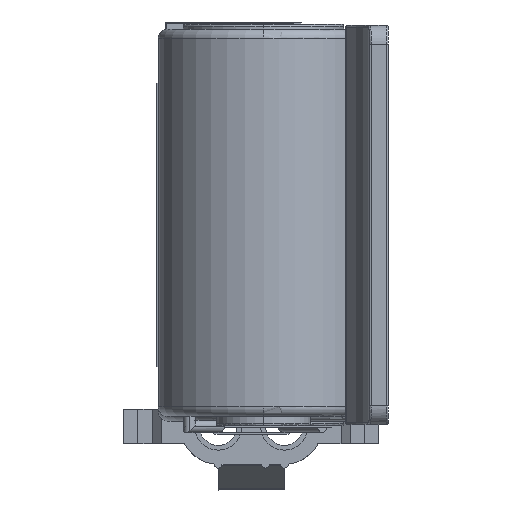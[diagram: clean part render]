
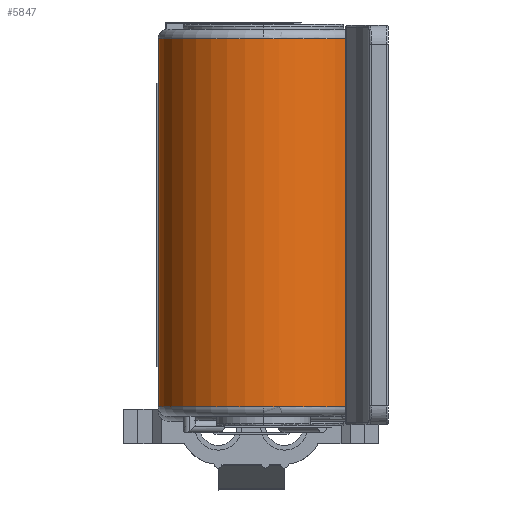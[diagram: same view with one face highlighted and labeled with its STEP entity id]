
A CAD part, front view. The second image highlights one B-rep face of the part: STEP entity #5847.
In plain terms, the highlighted cylindrical face has radius 11.175 mm (diameter 22.35 mm), a partial arc.
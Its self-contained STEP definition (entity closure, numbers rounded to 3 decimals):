
#841=DIRECTION('',(0.,0.,1.));
#842=VECTOR('',#841,39.);
#843=CARTESIAN_POINT('',(-4.466,18.191,-31.25));
#844=LINE('',#843,#842);
#845=DIRECTION('',(0.,0.,-1.));
#846=VECTOR('',#845,39.);
#847=CARTESIAN_POINT('',(-4.466,4.209,7.75));
#848=LINE('',#847,#846);
#854=CARTESIAN_POINT('',(-13.2,11.2,-31.25));
#855=DIRECTION('',(0.,0.,1.));
#856=DIRECTION('',(0.,1.,0.));
#857=AXIS2_PLACEMENT_3D('',#854,#855,#856);
#864=CARTESIAN_POINT('',(-13.2,11.2,-31.25));
#865=DIRECTION('',(0.,0.,1.));
#866=DIRECTION('',(0.781,0.625,0.));
#867=AXIS2_PLACEMENT_3D('',#864,#865,#866);
#874=CARTESIAN_POINT('',(-13.2,11.2,-31.25));
#875=DIRECTION('',(0.,0.,1.));
#876=DIRECTION('',(0.,-1.,0.));
#877=AXIS2_PLACEMENT_3D('',#874,#875,#876);
#896=CARTESIAN_POINT('',(-13.2,11.2,7.75));
#897=DIRECTION('',(0.,0.,-1.));
#898=DIRECTION('',(0.781,-0.625,0.));
#899=AXIS2_PLACEMENT_3D('',#896,#897,#898);
#906=CARTESIAN_POINT('',(-13.2,11.2,7.75));
#907=DIRECTION('',(0.,0.,-1.));
#908=DIRECTION('',(0.,1.,0.));
#909=AXIS2_PLACEMENT_3D('',#906,#907,#908);
#916=CARTESIAN_POINT('',(-13.2,11.2,7.75));
#917=DIRECTION('',(0.,0.,-1.));
#918=DIRECTION('',(0.,-1.,0.));
#919=AXIS2_PLACEMENT_3D('',#916,#917,#918);
#4335=CARTESIAN_POINT('',(-4.466,18.191,-31.25));
#4336=CARTESIAN_POINT('',(-4.466,18.191,7.75));
#4337=VERTEX_POINT('',#4335);
#4338=VERTEX_POINT('',#4336);
#4343=CARTESIAN_POINT('',(-13.2,22.375,-31.25));
#4344=CARTESIAN_POINT('',(-13.2,0.025,-31.25));
#4345=VERTEX_POINT('',#4343);
#4346=VERTEX_POINT('',#4344);
#4347=CARTESIAN_POINT('',(-13.2,22.375,7.75));
#4348=VERTEX_POINT('',#4347);
#4349=CARTESIAN_POINT('',(-13.2,0.025,7.75));
#4350=VERTEX_POINT('',#4349);
#4351=CARTESIAN_POINT('',(-4.476,4.217,7.75));
#4352=VERTEX_POINT('',#4351);
#4353=CARTESIAN_POINT('',(-4.466,4.209,-31.25));
#4354=VERTEX_POINT('',#4353);
#5825=CARTESIAN_POINT('',(-13.2,11.2,-32.25));
#5826=DIRECTION('',(0.,0.,1.));
#5827=DIRECTION('',(0.,-1.,0.));
#5828=AXIS2_PLACEMENT_3D('',#5825,#5826,#5827);
#5829=CYLINDRICAL_SURFACE('',#5828,11.175);
#5831=ORIENTED_EDGE('',*,*,#5830,.F.);
#5833=ORIENTED_EDGE('',*,*,#5832,.F.);
#5834=ORIENTED_EDGE('',*,*,#5811,.T.);
#5836=ORIENTED_EDGE('',*,*,#5835,.F.);
#5838=ORIENTED_EDGE('',*,*,#5837,.F.);
#5840=ORIENTED_EDGE('',*,*,#5839,.F.);
#5842=ORIENTED_EDGE('',*,*,#5841,.T.);
#5844=ORIENTED_EDGE('',*,*,#5843,.F.);
#5845=EDGE_LOOP('',(#5831,#5833,#5834,#5836,#5838,#5840,#5842,#5844));
#5846=FACE_OUTER_BOUND('',#5845,.F.);
#5847=ADVANCED_FACE('',(#5846),#5829,.T.);
#858=CIRCLE('',#857,11.175);
#868=CIRCLE('',#867,11.175);
#878=CIRCLE('',#877,11.175);
#900=CIRCLE('',#899,11.175);
#910=CIRCLE('',#909,11.175);
#920=CIRCLE('',#919,11.175);
#5811=EDGE_CURVE('',#4337,#4338,#844,.T.);
#5830=EDGE_CURVE('',#4345,#4346,#858,.T.);
#5832=EDGE_CURVE('',#4337,#4345,#868,.T.);
#5835=EDGE_CURVE('',#4348,#4338,#910,.T.);
#5837=EDGE_CURVE('',#4350,#4348,#920,.T.);
#5839=EDGE_CURVE('',#4352,#4350,#900,.T.);
#5841=EDGE_CURVE('',#4352,#4354,#848,.T.);
#5843=EDGE_CURVE('',#4346,#4354,#878,.T.);
